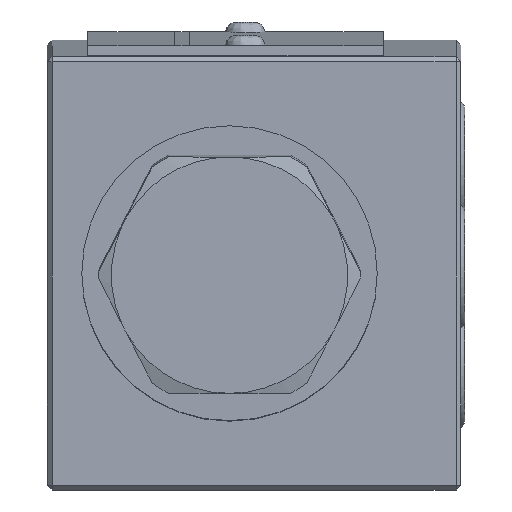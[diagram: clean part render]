
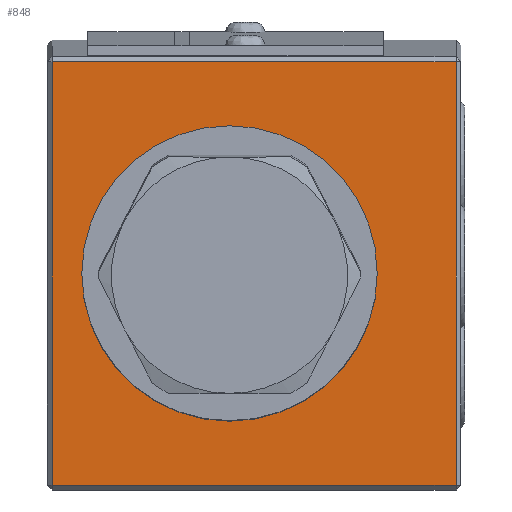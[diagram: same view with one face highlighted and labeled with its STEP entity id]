
A CAD part, left-side view. The second image highlights one B-rep face of the part: STEP entity #848.
In plain terms, the highlighted planar face has unit normal (-1, 0, -0.025).
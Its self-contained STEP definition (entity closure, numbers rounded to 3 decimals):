
#414=FACE_BOUND('',#1360,.T.);
#415=FACE_BOUND('',#1361,.T.);
#714=PLANE('',#4034);
#848=ADVANCED_FACE('',(#414,#415),#714,.T.);
#1360=EDGE_LOOP('',(#2260,#2261,#2262,#2263));
#1361=EDGE_LOOP('',(#2264));
#1650=LINE('',#6101,#1833);
#1651=LINE('',#6104,#1834);
#1652=LINE('',#6106,#1835);
#1653=LINE('',#6108,#1836);
#1833=VECTOR('',#4632,1.);
#1834=VECTOR('',#4633,1.);
#1835=VECTOR('',#4634,1.);
#1836=VECTOR('',#4635,1.);
#2260=ORIENTED_EDGE('',*,*,#3417,.T.);
#2261=ORIENTED_EDGE('',*,*,#3418,.T.);
#2262=ORIENTED_EDGE('',*,*,#3419,.T.);
#2263=ORIENTED_EDGE('',*,*,#3420,.T.);
#2264=ORIENTED_EDGE('',*,*,#3421,.F.);
#3044=VERTEX_POINT('',#6102);
#3045=VERTEX_POINT('',#6103);
#3046=VERTEX_POINT('',#6105);
#3047=VERTEX_POINT('',#6107);
#3048=VERTEX_POINT('',#6110);
#3417=EDGE_CURVE('',#3044,#3045,#1650,.T.);
#3418=EDGE_CURVE('',#3045,#3046,#1651,.T.);
#3419=EDGE_CURVE('',#3046,#3047,#1652,.T.);
#3420=EDGE_CURVE('',#3047,#3044,#1653,.T.);
#3421=EDGE_CURVE('',#3048,#3048,#3790,.T.);
#3790=CIRCLE('',#4033,15.);
#4033=AXIS2_PLACEMENT_3D('',#6109,#4636,#4637);
#4034=AXIS2_PLACEMENT_3D('',#6111,#4638,#4639);
#4632=DIRECTION('',(0.,-1.,0.));
#4633=DIRECTION('',(-0.025,0.,1.));
#4634=DIRECTION('',(0.,1.,0.));
#4635=DIRECTION('',(0.025,0.,-1.));
#4636=DIRECTION('',(-1.,0.,-0.025));
#4637=DIRECTION('',(-0.025,0.,1.));
#4638=DIRECTION('',(-1.,0.,-0.025));
#4639=DIRECTION('',(0.025,0.,-1.));
#6101=CARTESIAN_POINT('',(169.381,270.792,-22.177));
#6102=CARTESIAN_POINT('',(169.381,313.292,-22.177));
#6103=CARTESIAN_POINT('',(169.381,272.292,-22.177));
#6104=CARTESIAN_POINT('',(168.308,272.292,21.31));
#6105=CARTESIAN_POINT('',(168.321,272.292,20.81));
#6106=CARTESIAN_POINT('',(168.321,313.792,20.81));
#6107=CARTESIAN_POINT('',(168.321,313.292,20.81));
#6108=CARTESIAN_POINT('',(169.393,313.292,-22.676));
#6109=CARTESIAN_POINT('',(168.851,295.292,-0.683));
#6110=CARTESIAN_POINT('',(168.481,295.292,14.312));
#6111=CARTESIAN_POINT('',(168.234,270.792,24.309));
